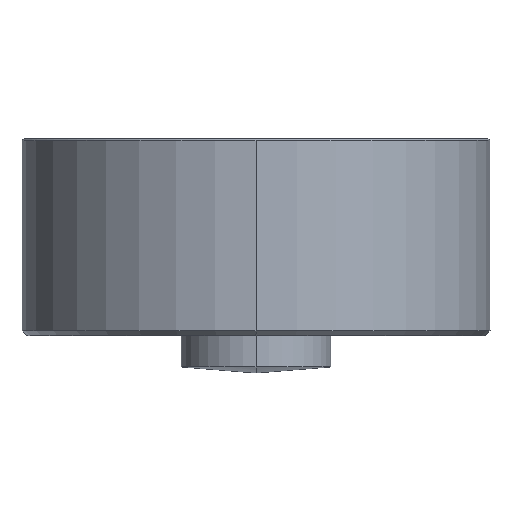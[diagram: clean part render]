
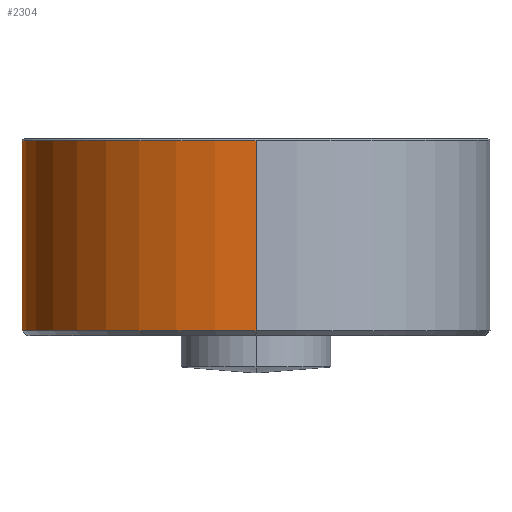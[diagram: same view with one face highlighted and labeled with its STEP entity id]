
A CAD part, left-side view. The second image highlights one B-rep face of the part: STEP entity #2304.
In plain terms, the highlighted cylindrical face has radius 25 mm (diameter 50 mm), a partial arc.
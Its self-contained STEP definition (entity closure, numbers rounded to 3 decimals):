
#16 = CARTESIAN_POINT ( 'NONE',  ( 23.5, 8.529, 20.8 ) ) ;
#18 = CIRCLE ( 'NONE', #21, 25. ) ;
#21 = AXIS2_PLACEMENT_3D ( 'NONE', #3118, #399, #3350 ) ;
#207 = CARTESIAN_POINT ( 'NONE',  ( 23.5, 8.529, 3. ) ) ;
#399 = DIRECTION ( 'NONE',  ( 0., 0., 1. ) ) ;
#400 = EDGE_CURVE ( 'NONE', #1433, #3498, #2661, .T. ) ;
#526 = DIRECTION ( 'NONE',  ( 0., 0., 1. ) ) ;
#566 = CARTESIAN_POINT ( 'NONE',  ( -25., 0., 20.8 ) ) ;
#630 = DIRECTION ( 'NONE',  ( 0., 0., -1. ) ) ;
#698 = EDGE_CURVE ( 'NONE', #2934, #1255, #18, .T. ) ;
#784 = AXIS2_PLACEMENT_3D ( 'NONE', #3108, #1614, #1038 ) ;
#851 = CARTESIAN_POINT ( 'NONE',  ( 0., 0., 0.5 ) ) ;
#895 = CARTESIAN_POINT ( 'NONE',  ( 25., 0., 21. ) ) ;
#898 = CARTESIAN_POINT ( 'NONE',  ( 25., 0., 0.5 ) ) ;
#1038 = DIRECTION ( 'NONE',  ( -1., 0., 0. ) ) ;
#1166 = ORIENTED_EDGE ( 'NONE', *, *, #400, .T. ) ;
#1255 = VERTEX_POINT ( 'NONE', #3628 ) ;
#1287 = EDGE_CURVE ( 'NONE', #1255, #3498, #3761, .T. ) ;
#1359 = VERTEX_POINT ( 'NONE', #2585 ) ;
#1398 = AXIS2_PLACEMENT_3D ( 'NONE', #3784, #1725, #3497 ) ;
#1433 = VERTEX_POINT ( 'NONE', #566 ) ;
#1458 = AXIS2_PLACEMENT_3D ( 'NONE', #851, #3478, #3527 ) ;
#1488 = EDGE_CURVE ( 'NONE', #3790, #1359, #2564, .T. ) ;
#1595 = EDGE_LOOP ( 'NONE', ( #2771, #3284, #2847, #2900, #1166, #3618 ) ) ;
#1614 = DIRECTION ( 'NONE',  ( 0., 0., -1. ) ) ;
#1725 = DIRECTION ( 'NONE',  ( 0., 0., -1. ) ) ;
#1761 = VECTOR ( 'NONE', #526, 1000. ) ;
#2002 = FACE_OUTER_BOUND ( 'NONE', #1595, .T. ) ;
#2203 = VECTOR ( 'NONE', #630, 1000. ) ;
#2304 = ADVANCED_FACE ( 'NONE', ( #2002 ), #3264, .T. ) ;
#2417 = EDGE_CURVE ( 'NONE', #2934, #3790, #2791, .T. ) ;
#2523 = DIRECTION ( 'NONE',  ( 0., 0., -1. ) ) ;
#2564 = CIRCLE ( 'NONE', #1458, 25. ) ;
#2585 = CARTESIAN_POINT ( 'NONE',  ( -25., 0., 0.5 ) ) ;
#2661 = CIRCLE ( 'NONE', #1398, 25. ) ;
#2684 = EDGE_CURVE ( 'NONE', #1433, #1359, #3159, .T. ) ;
#2692 = VECTOR ( 'NONE', #2523, 1000. ) ;
#2771 = ORIENTED_EDGE ( 'NONE', *, *, #698, .F. ) ;
#2791 = LINE ( 'NONE', #895, #2203 ) ;
#2847 = ORIENTED_EDGE ( 'NONE', *, *, #1488, .T. ) ;
#2900 = ORIENTED_EDGE ( 'NONE', *, *, #2684, .F. ) ;
#2921 = CARTESIAN_POINT ( 'NONE',  ( 25., 0., 3. ) ) ;
#2934 = VERTEX_POINT ( 'NONE', #2921 ) ;
#3108 = CARTESIAN_POINT ( 'NONE',  ( 0., 0., 21. ) ) ;
#3118 = CARTESIAN_POINT ( 'NONE',  ( 0., 0., 3. ) ) ;
#3159 = LINE ( 'NONE', #3693, #2692 ) ;
#3264 = CYLINDRICAL_SURFACE ( 'NONE', #784, 25. ) ;
#3284 = ORIENTED_EDGE ( 'NONE', *, *, #2417, .T. ) ;
#3350 = DIRECTION ( 'NONE',  ( 1., 0., 0. ) ) ;
#3478 = DIRECTION ( 'NONE',  ( 0., 0., 1. ) ) ;
#3497 = DIRECTION ( 'NONE',  ( 1., 0., 0. ) ) ;
#3498 = VERTEX_POINT ( 'NONE', #16 ) ;
#3527 = DIRECTION ( 'NONE',  ( 1., 0., 0. ) ) ;
#3618 = ORIENTED_EDGE ( 'NONE', *, *, #1287, .F. ) ;
#3628 = CARTESIAN_POINT ( 'NONE',  ( 23.5, 8.529, 3. ) ) ;
#3693 = CARTESIAN_POINT ( 'NONE',  ( -25., 0., 21. ) ) ;
#3761 = LINE ( 'NONE', #207, #1761 ) ;
#3784 = CARTESIAN_POINT ( 'NONE',  ( 0., 0., 20.8 ) ) ;
#3790 = VERTEX_POINT ( 'NONE', #898 ) ;
